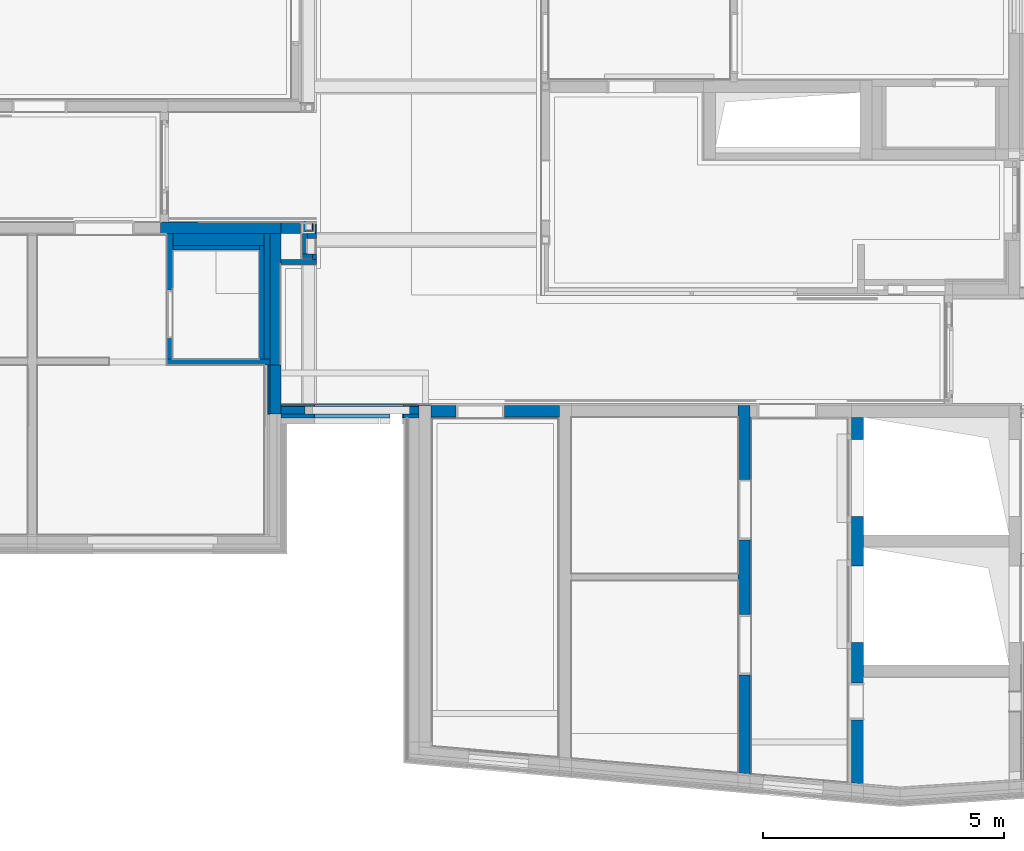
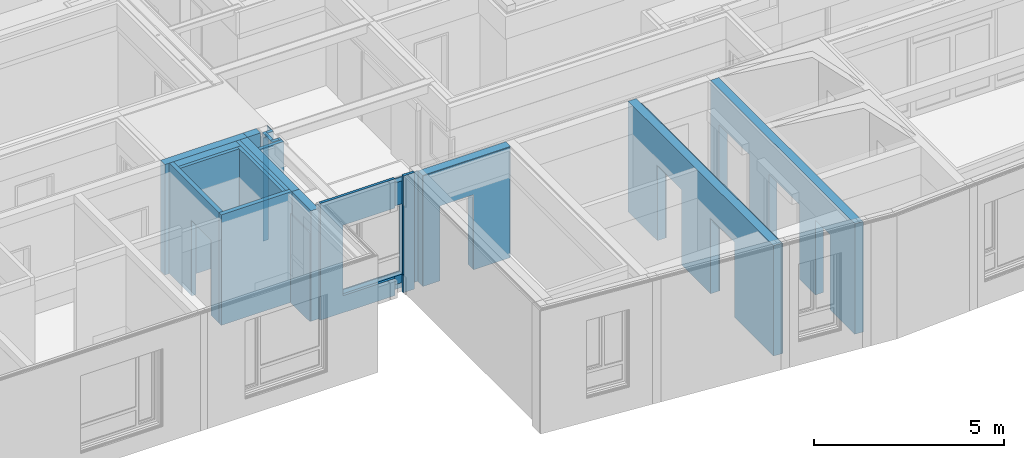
# One storey, part 21 of 222: 29 walls, 13 openings.
"""IFC4 building model written with IfcOpenShell, lengths in metres."""

from ifc_helpers import new_model, entity, si_unit, converted_unit, derived_unit, frame, frame_2d, origin, origin_with_axes, place, context, subcontext, project, spatial, polyline, rectangle, outline, extrude, clip, bounded_halfspace, material, element, save


model = new_model("IFC4")

# Units and contexts
model_context = context("Model", 3, precision=1e-05, world=origin())
body_context = subcontext(model_context, "Body", "Model", "MODEL_VIEW")
ifc_project = project(units=[si_unit("LENGTHUNIT", "METRE"), si_unit("AREAUNIT", "SQUARE_METRE"), si_unit("VOLUMEUNIT", "CUBIC_METRE"), si_unit("MASSUNIT", "GRAM", prefix="KILO"), converted_unit("PLANEANGLEUNIT", "DEGREE", entity("IfcPlaneAngleMeasure", 0.0174532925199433), si_unit("PLANEANGLEUNIT", "RADIAN"), dimensions=[0, 0, 0, 0, 0, 0, 0]), derived_unit("THERMALTRANSMITTANCEUNIT", [(si_unit("POWERUNIT", "WATT"), 1), (si_unit("THERMODYNAMICTEMPERATUREUNIT", "KELVIN"), -1), (si_unit("LENGTHUNIT", "METRE"), -2)]), derived_unit("VOLUMETRICFLOWRATEUNIT", [(si_unit("LENGTHUNIT", "METRE"), 3), (converted_unit("TIMEUNIT", "hour", entity("IfcTimeMeasure", 3600.0), si_unit("TIMEUNIT", "SECOND"), dimensions=[0, 0, 1, 0, 0, 0, 0]), -1), (si_unit("LENGTHUNIT", "METRE"), -1)])], contexts=[model_context])

# Site, building, storey
site_placement = place(None, origin())
site = spatial("IfcSite", under=ifc_project, at=site_placement, Name="Psychiatrie Neubau Wunstorf", CompositionType="ELEMENT")
building_placement = place(site_placement, origin())
building = spatial("IfcBuilding", under=site, at=building_placement, Name="Neubau H2 Stationsgebäude", CompositionType="ELEMENT")
storey_placement = place(building_placement, frame((0.0, 0.0, 3.6)))
storey = spatial("IfcBuildingStorey", under=building, at=storey_placement, Name="H2 Ebene +1", CompositionType="ELEMENT", Elevation=3.6)

# Wall
ifc_material_1 = material(Name="WI-LB")
wall_1_placement = place(storey_placement, frame((38.28, 0.55, 0.0), z_axis=(0.0, 0.0, 1.0), x_axis=(-1.0, 0.0, 0.0)))
element("IfcWall", 1, at=wall_1_placement, inside=storey, material=ifc_material_1, context=body_context, shape_type="SweptSolid", body=[
    extrude(rectangle(XDim=0.25, YDim=0.025, at=frame_2d((0.125, 0.0125), x_axis=(1.0, 0.0))), origin_with_axes(), (0.0, 0.0, 1.0), 3.55),
])

# Wall, opening
ifc_material_2 = material(Name="WA-LB")
wall_2_placement = place(storey_placement, frame((38.03, 0.536002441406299, 0.0), z_axis=(0.0, 0.0, 1.0), x_axis=(-1.0, 3.17394765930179e-16, 0.0)))
wall_2 = element("IfcWall", 2, at=wall_2_placement, inside=storey, material=ifc_material_2, context=body_context, shape_type="SweptSolid", body=[
    extrude(rectangle(XDim=2.8655, YDim=0.0359999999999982, at=frame_2d((1.43275, 0.0179999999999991), x_axis=(1.0, 0.0))), origin_with_axes(), (0.0, 0.0, 1.0), 3.55),
])
opening_1_placement = place(wall_2_placement, frame((2.16900498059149, 0.0359999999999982, 0.55), z_axis=(0.0, -1.0, 0.0), x_axis=(0.0, 0.0, 1.0)))
element("IfcOpeningElement", 3, at=opening_1_placement, cuts=wall_2, Name="Fensteröffnung", ObjectType="Opening", context=body_context, shape_type="SweptSolid", body=[
    extrude(outline(polyline([(2.26, 1.8480211), (2.26, 0.0), (0.0, 0.0), (0.0, 1.8480211), (2.26, 1.8480211)])), origin_with_axes(), (0.0, 0.0, 1.0), 0.0359999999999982),
])

ifc_material_3 = material(Name="WA-HD")
wall_3_placement = place(storey_placement, frame((38.03, 0.5000024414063, 0.0), z_axis=(0.0, 0.0, 1.0), x_axis=(-1.0, 3.37231938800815e-16, 0.0)))
wall_3 = element("IfcWall", 4, at=wall_3_placement, inside=storey, material=ifc_material_3, context=body_context, shape_type="Clipping", body=[
    clip(clip(extrude(rectangle(XDim=2.8655, YDim=0.16, at=frame_2d((1.43275, 0.08), x_axis=(1.0, 0.0))), origin_with_axes(), (0.0, 0.0, 1.0), 3.55), bounded_halfspace(frame((1.27750249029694, 0.0800006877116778, 0.28), z_axis=(0.0, 0.0, 1.0), x_axis=(-1.0, 2.86558964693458e-17, 0.0)), True, origin_with_axes(), polyline([(2.36500498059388, 0.16), (0.19, 0.16), (0.19, 1.37542335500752e-06), (2.36500498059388, 1.37542335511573e-06), (2.36500498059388, 0.16)]))), bounded_halfspace(frame((2.28500498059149, 0.0800000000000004, 0.5), z_axis=(0.0, 0.0, -1.0), x_axis=(-3.37231938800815e-16, 1.0, 0.0)), True, origin_with_axes(), polyline([(2.36500498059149, 0.0), (2.36500498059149, 0.16), (2.20500498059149, 0.16), (2.20500498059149, 0.0), (2.36500498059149, 0.0)]))),
])
opening_2_placement = place(wall_3_placement, frame((2.16900498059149, 0.16, 0.55), z_axis=(0.0, -1.0, 0.0), x_axis=(0.0, 0.0, 1.0)))
element("IfcOpeningElement", 5, at=opening_2_placement, cuts=wall_3, Name="Fensteröffnung", ObjectType="Opening", context=body_context, shape_type="SweptSolid", body=[
    extrude(outline(polyline([(2.26, 1.8480211), (2.26, 0.0), (0.0, 0.0), (0.0, 1.8480211), (2.26, 1.8480211)])), origin_with_axes(), (0.0, 0.0, 1.0), 0.16),
])

ifc_material_4 = material(Name="WA-DL")
wall_4_placement = place(storey_placement, frame((38.03, 0.3400024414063, 0.0), z_axis=(0.0, 0.0, 1.0), x_axis=(-1.0, 3.37231938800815e-16, 0.0)))
wall_4 = element("IfcWall", 6, at=wall_4_placement, inside=storey, material=ifc_material_4, context=body_context, shape_type="SweptSolid", body=[
    extrude(rectangle(XDim=2.27051610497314, YDim=0.0800000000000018, at=frame_2d((1.13525805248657, 0.0400000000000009), x_axis=(1.0, 1.17709374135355e-17))), frame((0.59498389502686, 0.0, 0.0), z_axis=(0.0, 0.0, 1.0), x_axis=(1.0, 0.0, 0.0)), (0.0, 0.0, 1.0), 3.75),
    extrude(rectangle(XDim=0.34498389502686, YDim=0.0800000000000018, at=frame_2d((-0.17249194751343, -0.0400000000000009), x_axis=(-1.0, -7.68948954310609e-18))), frame((0.34498389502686, 0.0800000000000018, 0.0), z_axis=(0.0, 0.0, 1.0), x_axis=(1.0, 0.0, 0.0)), (0.0, 0.0, 1.0), 3.75),
])
opening_3_placement = place(wall_4_placement, frame((2.16900498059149, 0.0800000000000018, 0.55), z_axis=(0.0, -1.0, 0.0), x_axis=(0.0, 0.0, 1.0)))
element("IfcOpeningElement", 7, at=opening_3_placement, cuts=wall_4, Name="Fensteröffnung", ObjectType="Opening", context=body_context, shape_type="SweptSolid", body=[
    extrude(outline(polyline([(2.26, 1.8480211), (2.26, 0.0), (0.0, 0.0), (0.0, 1.8480211), (2.26, 1.8480211)])), origin_with_axes(), (0.0, 0.0, 1.0), 0.0800000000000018),
])

# Walls
ifc_material_5 = material(Name="WI-LB")
wall_5_placement = place(storey_placement, frame((34.9325, 1.48374963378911, 0.0), z_axis=(0.0, 0.0, 1.0), x_axis=(-1.0, 5.73746657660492e-15, 0.0)))
element("IfcWall", 8, at=wall_5_placement, inside=storey, material=ifc_material_5, context=body_context, shape_type="SweptSolid", body=[
    extrude(rectangle(XDim=2.14, YDim=0.125, at=frame_2d((1.07, 0.0624999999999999), x_axis=(1.0, 0.0))), origin_with_axes(), (0.0, 0.0, 1.0), 3.55),
])
ifc_material_6 = material(Name="WI-HW 60")
wall_6_placement = place(storey_placement, frame((35.57, 4.33074963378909, 0.0), z_axis=(0.0, 0.0, 1.0), x_axis=(-1.0, 0.0, 0.0)))
element("IfcWall", 9, at=wall_6_placement, inside=storey, material=ifc_material_6, context=body_context, shape_type="SweptSolid", body=[
    extrude(rectangle(XDim=0.405499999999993, YDim=0.232, at=frame_2d((0.202749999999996, 0.116), x_axis=(1.0, 0.0))), origin_with_axes(), (0.0, 0.0, 1.0), 3.55),
])

# Wall, opening
ifc_material_7 = material(Name="WI-LB")
wall_7_placement = place(storey_placement, frame((32.7925, 4.09874963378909, 0.0), z_axis=(0.0, 0.0, 1.0), x_axis=(0.0, -1.0, 0.0)))
wall_7 = element("IfcWall", 10, at=wall_7_placement, inside=storey, material=ifc_material_7, context=body_context, shape_type="SweptSolid", body=[
    extrude(rectangle(XDim=2.61499999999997, YDim=0.125, at=frame_2d((1.30749999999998, 0.0625), x_axis=(1.0, 0.0))), origin_with_axes(), (0.0, 0.0, 1.0), 3.55),
])
opening_4_placement = place(wall_7_placement, frame((2.19000000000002, 0.125, 0.0), z_axis=(0.0, -1.0, 0.0), x_axis=(0.0, 0.0, 1.0)))
element("IfcOpeningElement", 11, at=opening_4_placement, cuts=wall_7, Name="Türöffnung", ObjectType="Opening", context=body_context, shape_type="SweptSolid", body=[
    extrude(outline(polyline([(2.41, 1.01), (2.41, 0.0), (0.0, 0.0), (0.0, 1.01), (2.41, 1.01)])), origin_with_axes(), (0.0, 0.0, 1.0), 0.125),
])

# Walls
ifc_material_8 = material(Name="WI-HW 60")
wall_8_placement = place(storey_placement, frame((35.1645, 0.340002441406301, 0.0), z_axis=(0.0, 0.0, 1.0), x_axis=(0.0, 1.0, 0.0)))
element("IfcWall", 12, at=wall_8_placement, inside=storey, material=ifc_material_8, context=body_context, shape_type="SweptSolid", body=[
    extrude(rectangle(XDim=1.0187471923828, YDim=0.232, at=frame_2d((0.509373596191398, 0.116), x_axis=(1.0, 0.0))), origin_with_axes(), (0.0, 0.0, 1.0), 3.55),
])
ifc_material_9 = material(Name="WI-LB")
wall_9_placement = place(storey_placement, frame((34.9325, 0.340002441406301, 0.0), z_axis=(0.0, 0.0, 1.0), x_axis=(0.0, 1.0, 0.0)))
element("IfcWall", 13, at=wall_9_placement, inside=storey, material=ifc_material_9, context=body_context, shape_type="SweptSolid", body=[
    extrude(rectangle(XDim=1.0187471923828, YDim=0.04, at=frame_2d((0.509373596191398, 0.02), x_axis=(1.0, 0.0))), origin_with_axes(), (0.0, 0.0, 1.0), 2.85),
])
ifc_material_10 = material(Name="WI-HW 60")
wall_10_placement = place(storey_placement, frame((35.1645, 1.3587496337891, 0.0), z_axis=(0.0, 0.0, 1.0), x_axis=(0.0, 1.0, 0.0)))
element("IfcWall", 14, at=wall_10_placement, inside=storey, material=ifc_material_10, context=body_context, shape_type="SweptSolid", body=[
    extrude(rectangle(XDim=2.73999999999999, YDim=0.232, at=frame_2d((1.37, 0.116), x_axis=(1.0, 0.0))), origin_with_axes(), (0.0, 0.0, 1.0), 3.55),
])
ifc_material_11 = material(Name="WI-PR")
wall_11_placement = place(storey_placement, frame((35.6549950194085, 4.3257496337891, 0.0), z_axis=(0.0, 0.0, 1.0), x_axis=(0.0, -1.0, 0.0)))
element("IfcWall", 15, at=wall_11_placement, inside=storey, material=ifc_material_11, context=body_context, shape_type="SweptSolid", body=[
    extrude(rectangle(XDim=0.18, YDim=0.02, at=frame_2d((0.09, 0.01), x_axis=(1.0, 0.0))), origin_with_axes(), (0.0, 0.0, 1.0), 3.317),
])
ifc_material_12 = material(Name="WI-PR")
wall_12_placement = place(storey_placement, frame((35.6749950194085, 4.1457496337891, 0.0)))
element("IfcWall", 16, at=wall_12_placement, inside=storey, material=ifc_material_12, context=body_context, shape_type="SweptSolid", body=[
    extrude(rectangle(XDim=0.16, YDim=0.02, at=frame_2d((0.08, 0.01), x_axis=(1.0, 0.0))), origin_with_axes(), (0.0, 0.0, 1.0), 3.317),
])
ifc_material_13 = material(Name="WI-PR")
wall_13_placement = place(storey_placement, frame((35.8349950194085, 4.16574963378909, 0.0), z_axis=(0.0, 0.0, 1.0), x_axis=(0.0, 1.0, 0.0)))
element("IfcWall", 17, at=wall_13_placement, inside=storey, material=ifc_material_13, context=body_context, shape_type="SweptSolid", body=[
    extrude(rectangle(XDim=0.14, YDim=0.02, at=frame_2d((0.07, 0.01), x_axis=(1.0, 0.0))), origin_with_axes(), (0.0, 0.0, 1.0), 3.317),
])
ifc_material_14 = material(Name="WI-LB")
wall_14_placement = place(storey_placement, frame((35.8259950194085, 3.67074963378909, 0.0), z_axis=(0.0, 0.0, 1.0), x_axis=(-1.0, 0.0, 0.0)))
element("IfcWall", 18, at=wall_14_placement, inside=storey, material=ifc_material_14, context=body_context, shape_type="SweptSolid", body=[
    extrude(rectangle(XDim=0.211495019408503, YDim=0.1, at=frame_2d((0.105747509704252, 0.05), x_axis=(1.0, 0.0))), origin_with_axes(), (0.0, 0.0, 1.0), 3.55),
])
ifc_material_15 = material(Name="WI-LB")
wall_15_placement = place(storey_placement, frame((35.7145, 3.67074963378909, 0.0), z_axis=(0.0, 0.0, 1.0), x_axis=(0.0, 1.0, 0.0)))
element("IfcWall", 19, at=wall_15_placement, inside=storey, material=ifc_material_15, context=body_context, shape_type="SweptSolid", body=[
    extrude(rectangle(XDim=0.425, YDim=0.1, at=frame_2d((0.2125, 0.05), x_axis=(1.0, 0.0))), origin_with_axes(), (0.0, 0.0, 1.0), 3.55),
])
ifc_material_16 = material(Name="WI-LB")
wall_16_placement = place(storey_placement, frame((35.7145, 3.99574963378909, 0.0)))
element("IfcWall", 20, at=wall_16_placement, inside=storey, material=ifc_material_16, context=body_context, shape_type="SweptSolid", body=[
    extrude(rectangle(XDim=0.186495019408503, YDim=0.1, at=frame_2d((0.0932475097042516, 0.05), x_axis=(1.0, 0.0))), origin_with_axes(), (0.0, 0.0, 1.0), 3.55),
])
ifc_material_17 = material(Name="WI-LB")
wall_17_placement = place(storey_placement, frame((35.9009950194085, 4.09574963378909, 0.0), z_axis=(0.0, 0.0, 1.0), x_axis=(0.0, 1.0, 0.0)))
element("IfcWall", 21, at=wall_17_placement, inside=storey, material=ifc_material_17, context=body_context, shape_type="SweptSolid", body=[
    extrude(rectangle(XDim=0.204999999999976, YDim=0.025, at=frame_2d((0.102499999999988, 0.0125), x_axis=(1.0, 0.0))), origin_with_axes(), (0.0, 0.0, 1.0), 3.55),
])
ifc_material_18 = material(Name="WI-LB")
wall_18_placement = place(storey_placement, frame((35.9009950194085, 3.55074963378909, 0.0), z_axis=(0.0, 0.0, 1.0), x_axis=(0.0, 1.0, 0.0)))
element("IfcWall", 22, at=wall_18_placement, inside=storey, material=ifc_material_18, context=body_context, shape_type="SweptSolid", body=[
    extrude(rectangle(XDim=0.12, YDim=0.075, at=frame_2d((0.06, 0.0375), x_axis=(1.0, 0.0))), origin_with_axes(), (0.0, 0.0, 1.0), 3.55),
])
ifc_material_19 = material(Name="WI-HW 60")
wall_19_placement = place(storey_placement, frame((32.6634999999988, 4.09874963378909, 0.0)))
element("IfcWall", 23, at=wall_19_placement, inside=storey, material=ifc_material_19, context=body_context, shape_type="SweptSolid", body=[
    extrude(rectangle(XDim=2.50100000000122, YDim=0.232, at=frame_2d((1.25050000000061, 0.116), x_axis=(1.0, 0.0))), origin_with_axes(), (0.0, 0.0, 1.0), 3.55),
])

# Wall, openings
ifc_material_20 = material(Name="WI-LB")
wall_20_placement = place(storey_placement, frame((44.9410048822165, -7.14178278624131, 0.0), z_axis=(0.0, 0.0, 1.0), x_axis=(0.0, 1.0, 0.0)))
wall_20 = element("IfcWall", 24, at=wall_20_placement, inside=storey, material=ifc_material_20, context=body_context, shape_type="SweptSolid", body=[
    extrude(outline(polyline([(0.0, -0.025), (7.41678278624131, -0.025), (7.41678278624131, 0.0), (0.0021931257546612, 0.0), (0.0, -0.025)])), frame((0.0, 0.025, 0.0), z_axis=(0.0, 0.0, 1.0), x_axis=(1.0, 0.0, 0.0)), (0.0, 0.0, 1.0), 3.55),
])
opening_5_placement = place(wall_20_placement, frame((2.05928242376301, 0.0, 0.0), z_axis=(0.0, 1.0, 0.0), x_axis=(0.0, 0.0, 1.0)))
element("IfcOpeningElement", 25, at=opening_5_placement, cuts=wall_20, Name="SMT", ObjectType="Opening", context=body_context, shape_type="SweptSolid", body=[
    extrude(outline(polyline([(2.41, 1.26), (2.41, 0.0), (0.0, 0.0), (0.0, 1.26), (2.41, 1.26)])), origin_with_axes(), (0.0, 0.0, 1.0), 0.025),
])
opening_6_placement = place(wall_20_placement, frame((4.86928242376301, 0.0, 0.0), z_axis=(0.0, 1.0, 0.0), x_axis=(0.0, 0.0, 1.0)))
element("IfcOpeningElement", 26, at=opening_6_placement, cuts=wall_20, Name="SMT", ObjectType="Opening", context=body_context, shape_type="SweptSolid", body=[
    extrude(outline(polyline([(2.41, 1.26), (2.41, 0.0), (0.0, 0.0), (0.0, 1.26), (2.41, 1.26)])), origin_with_axes(), (0.0, 0.0, 1.0), 0.025),
])

ifc_material_21 = material(Name="WI-STB")
wall_21_placement = place(storey_placement, frame((44.9160048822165, -7.13958966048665, 0.0), z_axis=(0.0, 0.0, 1.0), x_axis=(0.0, 1.0, 0.0)))
wall_21 = element("IfcWall", 27, at=wall_21_placement, inside=storey, material=ifc_material_21, context=body_context, shape_type="SweptSolid", body=[
    extrude(outline(polyline([(0.0, -0.25), (7.66458966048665, -0.25), (7.66458966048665, 0.0), (0.0219312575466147, 0.0), (0.0, -0.25)])), frame((0.0, 0.25, 0.0), z_axis=(0.0, 0.0, 1.0), x_axis=(1.0, 0.0, 0.0)), (0.0, 0.0, 1.0), 3.55),
])
opening_7_placement = place(wall_21_placement, frame((2.05708929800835, 0.0, 0.0), z_axis=(0.0, 1.0, 0.0), x_axis=(0.0, 0.0, 1.0)))
element("IfcOpeningElement", 28, at=opening_7_placement, cuts=wall_21, Name="SMT", ObjectType="Opening", context=body_context, shape_type="SweptSolid", body=[
    extrude(outline(polyline([(2.41, 1.26), (2.41, 0.0), (0.0, 0.0), (0.0, 1.26), (2.41, 1.26)])), origin_with_axes(), (0.0, 0.0, 1.0), 0.25),
])
opening_8_placement = place(wall_21_placement, frame((4.86708929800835, 0.0, 0.0), z_axis=(0.0, 1.0, 0.0), x_axis=(0.0, 0.0, 1.0)))
element("IfcOpeningElement", 29, at=opening_8_placement, cuts=wall_21, Name="SMT", ObjectType="Opening", context=body_context, shape_type="SweptSolid", body=[
    extrude(outline(polyline([(2.41, 1.26), (2.41, 0.0), (0.0, 0.0), (0.0, 1.26), (2.41, 1.26)])), origin_with_axes(), (0.0, 0.0, 1.0), 0.25),
])

# Wall, opening
ifc_material_22 = material(Name="WI-STB")
wall_22_placement = place(storey_placement, frame((40.95, 0.525, 0.0), z_axis=(0.0, 0.0, 1.0), x_axis=(-1.0, 2.55476039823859e-16, 0.0)))
wall_22 = element("IfcWall", 30, at=wall_22_placement, inside=storey, material=ifc_material_22, context=body_context, shape_type="SweptSolid", body=[
    extrude(rectangle(XDim=2.66999999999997, YDim=0.25, at=frame_2d((1.33499999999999, 0.125), x_axis=(1.0, 0.0))), origin_with_axes(), (0.0, 0.0, 1.0), 3.55),
])
opening_9_placement = place(wall_22_placement, frame((2.14999999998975, 0.25, 0.0), z_axis=(0.0, -1.0, 0.0), x_axis=(0.0, 0.0, 1.0)))
element("IfcOpeningElement", 31, at=opening_9_placement, cuts=wall_22, Name="Türöffnung", ObjectType="Opening", context=body_context, shape_type="SweptSolid", body=[
    extrude(outline(polyline([(2.41, 1.01), (2.41, 0.0), (0.0, 0.0), (0.0, 1.01), (2.41, 1.01)])), origin_with_axes(), (0.0, 0.0, 1.0), 0.25),
])

ifc_material_23 = material(Name="WI-LB")
wall_23_placement = place(storey_placement, frame((40.926, 0.275, 0.0), z_axis=(0.0, 0.0, 1.0), x_axis=(-1.0, 2.57793282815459e-16, 0.0)))
wall_23 = element("IfcWall", 32, at=wall_23_placement, inside=storey, material=ifc_material_23, context=body_context, shape_type="SweptSolid", body=[
    extrude(rectangle(XDim=2.64599999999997, YDim=0.024, at=frame_2d((1.32299999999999, 0.012), x_axis=(1.0, 0.0))), origin_with_axes(), (0.0, 0.0, 1.0), 3.55),
])
opening_10_placement = place(wall_23_placement, frame((2.12599999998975, 0.024, 0.0), z_axis=(0.0, -1.0, 0.0), x_axis=(0.0, 0.0, 1.0)))
element("IfcOpeningElement", 33, at=opening_10_placement, cuts=wall_23, Name="Türöffnung", ObjectType="Opening", context=body_context, shape_type="SweptSolid", body=[
    extrude(outline(polyline([(2.41, 1.01), (2.41, 0.0), (0.0, 0.0), (0.0, 1.01), (2.41, 1.01)])), origin_with_axes(), (0.0, 0.0, 1.0), 0.024),
])

# Walls
ifc_material_24 = material(Name="WI-LB")
wall_24_placement = place(storey_placement, frame((35.1645, 3.45074963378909, 0.0)))
element("IfcWall", 34, at=wall_24_placement, inside=storey, material=ifc_material_24, context=body_context, shape_type="SweptSolid", body=[
    extrude(rectangle(XDim=0.736495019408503, YDim=0.1, at=frame_2d((0.368247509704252, 0.05), x_axis=(1.0, 0.0))), origin_with_axes(), (0.0, 0.0, 1.0), 3.55),
])
ifc_material_25 = material(Name="Installationsraum")
wall_25_placement = place(storey_placement, frame((34.8175, 4.09874963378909, 0.0), z_axis=(0.0, 0.0, 1.0), x_axis=(-1.0, 0.0, 0.0)))
element("IfcWall", 35, at=wall_25_placement, inside=storey, material=ifc_material_25, context=body_context, shape_type="SweptSolid", body=[
    extrude(rectangle(XDim=1.9, YDim=0.25, at=frame_2d((0.95, 0.125), x_axis=(1.0, 0.0))), origin_with_axes(), (0.0, 0.0, 1.0), 3.55),
])
ifc_material_26 = material(Name="WI-IW")
wall_26_placement = place(storey_placement, frame((34.7175, 3.84874963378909, 0.0), z_axis=(0.0, 0.0, 1.0), x_axis=(-1.0, 0.0, 0.0)))
element("IfcWall", 36, at=wall_26_placement, inside=storey, material=ifc_material_26, context=body_context, shape_type="SweptSolid", body=[
    extrude(rectangle(XDim=1.8, YDim=0.1, at=frame_2d((0.9, 0.05), x_axis=(1.0, 0.0))), origin_with_axes(), (0.0, 0.0, 1.0), 3.55),
])
ifc_material_27 = material(Name="Installationsraum")
wall_27_placement = place(storey_placement, frame((34.9325, 1.48374963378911, 0.0), z_axis=(0.0, 0.0, 1.0), x_axis=(-5.56478593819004e-15, 1.0, 0.0)))
element("IfcWall", 37, at=wall_27_placement, inside=storey, material=ifc_material_27, context=body_context, shape_type="SweptSolid", body=[
    extrude(rectangle(XDim=2.61499999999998, YDim=0.115, at=frame_2d((1.30749999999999, 0.0575), x_axis=(1.0, 0.0))), origin_with_axes(), (0.0, 0.0, 1.0), 3.55),
])
ifc_material_28 = material(Name="WI-VS")
wall_28_placement = place(storey_placement, frame((34.8175, 1.48374963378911, 0.0), z_axis=(0.0, 0.0, 1.0), x_axis=(-6.15302969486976e-15, 1.0, 0.0)))
element("IfcWall", 38, at=wall_28_placement, inside=storey, material=ifc_material_28, context=body_context, shape_type="SweptSolid", body=[
    extrude(rectangle(XDim=2.36499999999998, YDim=0.1, at=frame_2d((1.18249999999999, 0.05), x_axis=(1.0, 0.0))), origin_with_axes(), (0.0, 0.0, 1.0), 3.55),
])

# Wall, openings
ifc_material_29 = material(Name="WI-STB")
wall_29_placement = place(storey_placement, frame((47.2700048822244, -7.34612131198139, 0.0), z_axis=(0.0, 0.0, 1.0), x_axis=(0.0, 1.0, 0.0)))
wall_29 = element("IfcWall", 39, at=wall_29_placement, inside=storey, material=ifc_material_29, context=body_context, shape_type="SweptSolid", body=[
    extrude(outline(polyline([(0.0, -0.25000000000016), (7.62112131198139, -0.25000000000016), (7.62112131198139, 0.0), (0.0219341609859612, 0.0), (0.0, -0.25000000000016)])), frame((0.0, 0.25000000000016, 0.0), z_axis=(0.0, 0.0, 1.0), x_axis=(1.0, 0.0, 0.0)), (0.0, 0.0, 1.0), 3.55),
])
opening_11_placement = place(wall_29_placement, frame((7.15876912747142, 0.25000000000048, 0.0), z_axis=(0.0, -1.0, 0.0), x_axis=(0.0, 0.0, 1.0)))
element("IfcOpeningElement", 40, at=opening_11_placement, cuts=wall_29, Name="Türöffnung", ObjectType="Opening", context=body_context, shape_type="SweptSolid", body=[
    extrude(outline(polyline([(2.4, 1.6), (2.4, 0.0), (0.0, 0.0), (0.0, 1.6), (2.4, 1.6)])), origin_with_axes(), (0.0, 0.0, 1.0), 0.25000000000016),
])
opening_12_placement = place(wall_29_placement, frame((4.5361332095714, 0.25000000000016, 0.0), z_axis=(0.0, -1.0, 0.0), x_axis=(0.0, 0.0, 1.0)))
element("IfcOpeningElement", 41, at=opening_12_placement, cuts=wall_29, Name="Türöffnung", ObjectType="Opening", context=body_context, shape_type="SweptSolid", body=[
    extrude(outline(polyline([(2.4, 1.6), (2.4, 0.0), (0.0, 0.0), (0.0, 1.6), (2.4, 1.6)])), origin_with_axes(), (0.0, 0.0, 1.0), 0.25000000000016),
])
opening_13_placement = place(wall_29_placement, frame((2.09576645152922, 0.25000000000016, 0.0), z_axis=(0.0, -1.0, 0.0), x_axis=(0.0, 0.0, 1.0)))
element("IfcOpeningElement", 42, at=opening_13_placement, cuts=wall_29, Name="Türöffnung", ObjectType="Opening", context=body_context, shape_type="SweptSolid", body=[
    extrude(outline(polyline([(2.41, 0.76), (2.41, 0.0), (0.0, 0.0), (0.0, 0.76), (2.41, 0.76)])), origin_with_axes(), (0.0, 0.0, 1.0), 0.25000000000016),
])

save(model, "model.ifc")
